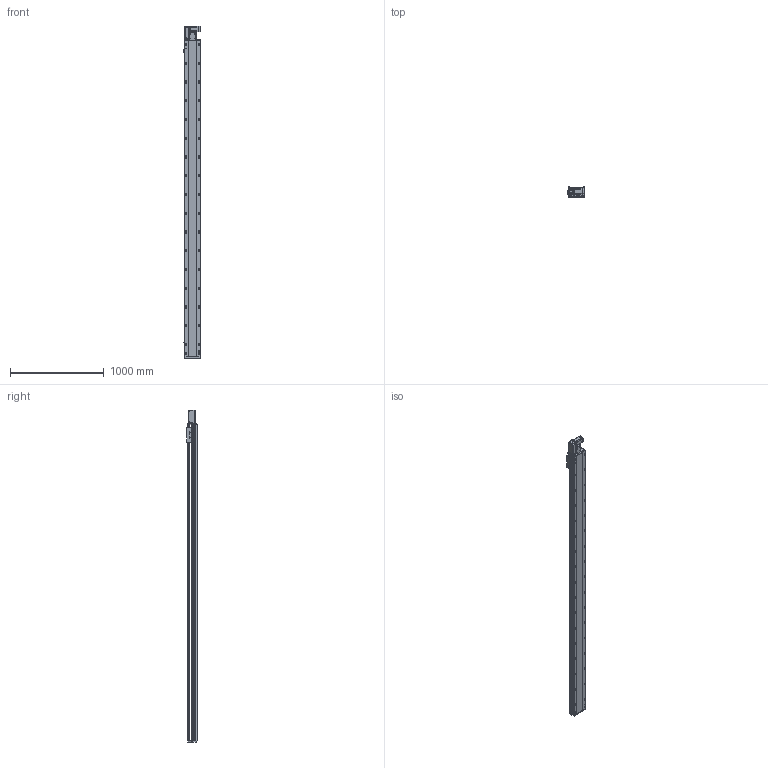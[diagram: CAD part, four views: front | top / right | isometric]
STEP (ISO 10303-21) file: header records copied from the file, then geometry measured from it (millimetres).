
FILE_DESCRIPTION (( 'STEP AP214' ), '1' );
FILE_NAME ('RTB17S-XX-3100-L-M40-C4.STEP', '2025-12-11T06:04:16', ( '' ), ( '' ), 'SwSTEP 2.0', 'SolidWorks 2018', '' );
FILE_SCHEMA (( 'AUTOMOTIVE_DESIGN' ));
Length unit declared in the file: millimetre
Products named in the file (14): 400W侜督萇儂^RTB17S-XX-XX-L-M40-C4; RTB17S-L-001耜醱啣^RTB17S-XX-XX-L-M40-C4; RTB17-R-011菁釱^RTB17S-XX-XX-L-M40-C4; RTB17S-L-々湍釱蚾饜-400W^RTB17S-XX-XX-L-M40-C4; RTB14-L-005P--轴承塑胶压盖^RTB17S-L-皮带座装配-400W_RTB17S-XX-XX-L-M40-C4; RTB14-L-018P^RTB17S-L-々湍釱蚾饜-400W_RTB17S-XX-XX-L-M40-C4; RMP17S-L-014-T20--々湍釱^RTB17S-L-々湍釱蚾饜-400W_RTB17S-XX-XX-L-M40-C4; RTB14-L-017P^RTB17S-L-々湍釱蚾饜-400W_RTB17S-XX-XX-L-M40-C4; RTH13-BL-012覜茼え俋离^RTB17S-XX-XX-L-M40-C4; OMRON EE-SX672 传感器^RTB17S-XX-XX-L-M40-C4; RTB14-L-008-M20--萇儂啣^RTB17S-L-々湍釱蚾饜-400W_RTB17S-XX-XX-L-M40-C4; RTB17S-L-004佪裝蹟譫蟀諉釱^RTB17S-XX-XX-L-M40-C4; RTB17S-L-007奻裔^RTB17S-XX-XX-L-M40-C4; RTB17S-XX-3100-L-M40-C4
Assembly tree (16 placements, depth 3):
  RTB17S-XX-3100-L-M40-C4
    RTB17-R-011菁釱^RTB17S-XX-XX-L-M40-C4
    RTB17S-L-007奻裔^RTB17S-XX-XX-L-M40-C4
    OMRON EE-SX672 传感器^RTB17S-XX-XX-L-M40-C4  x3
    RTB17S-L-001耜醱啣^RTB17S-XX-XX-L-M40-C4
    400W侜督萇儂^RTB17S-XX-XX-L-M40-C4
    RTB17S-L-004佪裝蹟譫蟀諉釱^RTB17S-XX-XX-L-M40-C4
    RTH13-BL-012覜茼え俋离^RTB17S-XX-XX-L-M40-C4
    RTB17S-L-々湍釱蚾饜-400W^RTB17S-XX-XX-L-M40-C4
      RMP17S-L-014-T20--々湍釱^RTB17S-L-々湍釱蚾饜-400W_RTB17S-XX-XX-L-M40-C4
      RTB14-L-005P--轴承塑胶压盖^RTB17S-L-皮带座装配-400W_RTB17S-XX-XX-L-M40-C4
      RTB14-L-008-M20--萇儂啣^RTB17S-L-々湍釱蚾饜-400W_RTB17S-XX-XX-L-M40-C4
      RTB14-L-017P^RTB17S-L-々湍釱蚾饜-400W_RTB17S-XX-XX-L-M40-C4  x2
      RTB14-L-018P^RTB17S-L-々湍釱蚾饜-400W_RTB17S-XX-XX-L-M40-C4
Bounding box: 186 x 108 x 3541 mm (x, y, z)
Volume: 29497044.2 mm3; surface area: 3366476.1 mm2
Topology: 15 solids, 15 shells, 2381 faces, 6681 edges, 4365 vertices
Faces by surface type: plane 1090, cylinder 843, bspline 301, cone 139, torus 8
Entity records: 71081 total; most frequent: CARTESIAN_POINT 20286, ORIENTED_EDGE 10206, DIRECTION 9386, EDGE_CURVE 5103, VERTEX_POINT 3353, AXIS2_PLACEMENT_3D 3283, VECTOR 2820, LINE 2820
